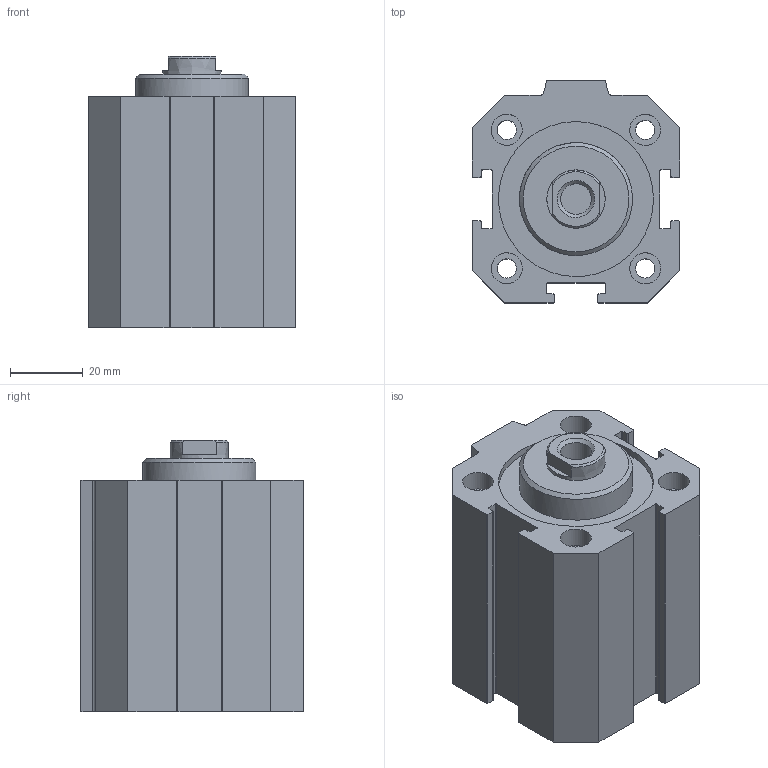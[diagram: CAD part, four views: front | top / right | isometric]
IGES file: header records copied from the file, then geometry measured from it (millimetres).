
Global section: file name: 1511_40_0025; native system: Autodesk Inventor 2014; preprocessor: unknown; author: A. Manieri; date: 20160824.120044; units: millimetre
Bounding box: 57 x 61 x 74.5 mm (x, y, z)
Volume: 152905.3 mm3; surface area: 44249.7 mm2
Topology: 2 solids, 2 shells, 117 faces, 300 edges, 205 vertices
Faces by surface type: bspline 117
